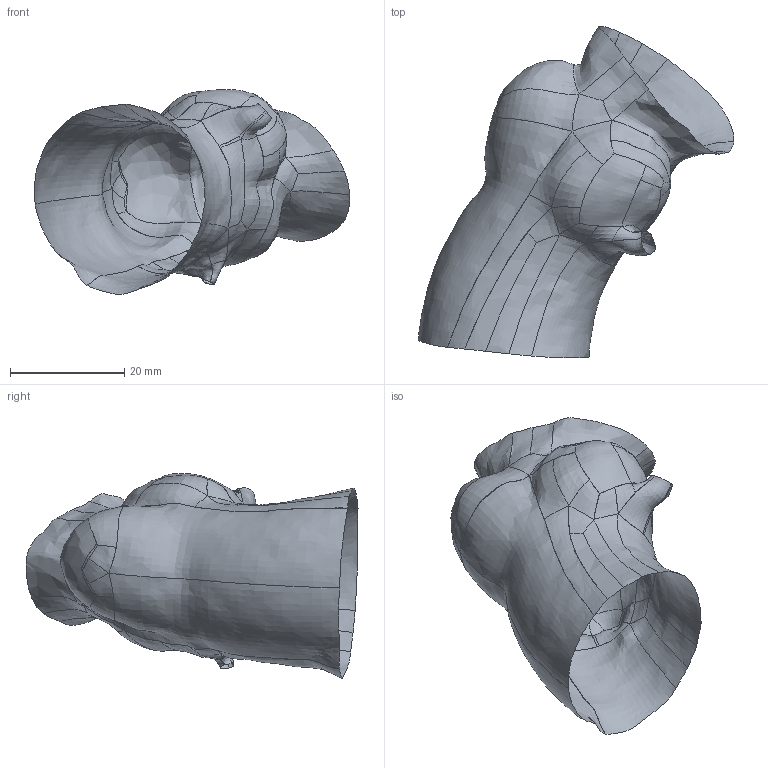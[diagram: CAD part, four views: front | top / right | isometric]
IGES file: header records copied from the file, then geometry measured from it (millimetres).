
Global section: file name: C:\FDA Main\Aorta\stenotic\3395912\3395912.aorta.0%.igs; native system: Rhinoceros ( Mar  9 2011 ); preprocessor: Trout Lake IGES 012 Mar  9 2011; author: Hansgen; organization: UCDenver 3DLab; date: 130305.182142; units: millimetre
Bounding box: 55.34 x 58.22 x 35.89 mm (x, y, z)
Surface area: 5423 mm2 (no closed solid volume)
Topology: 0 solids, 0 shells, 79 faces, 316 edges, 316 vertices
Faces by surface type: bspline 79
